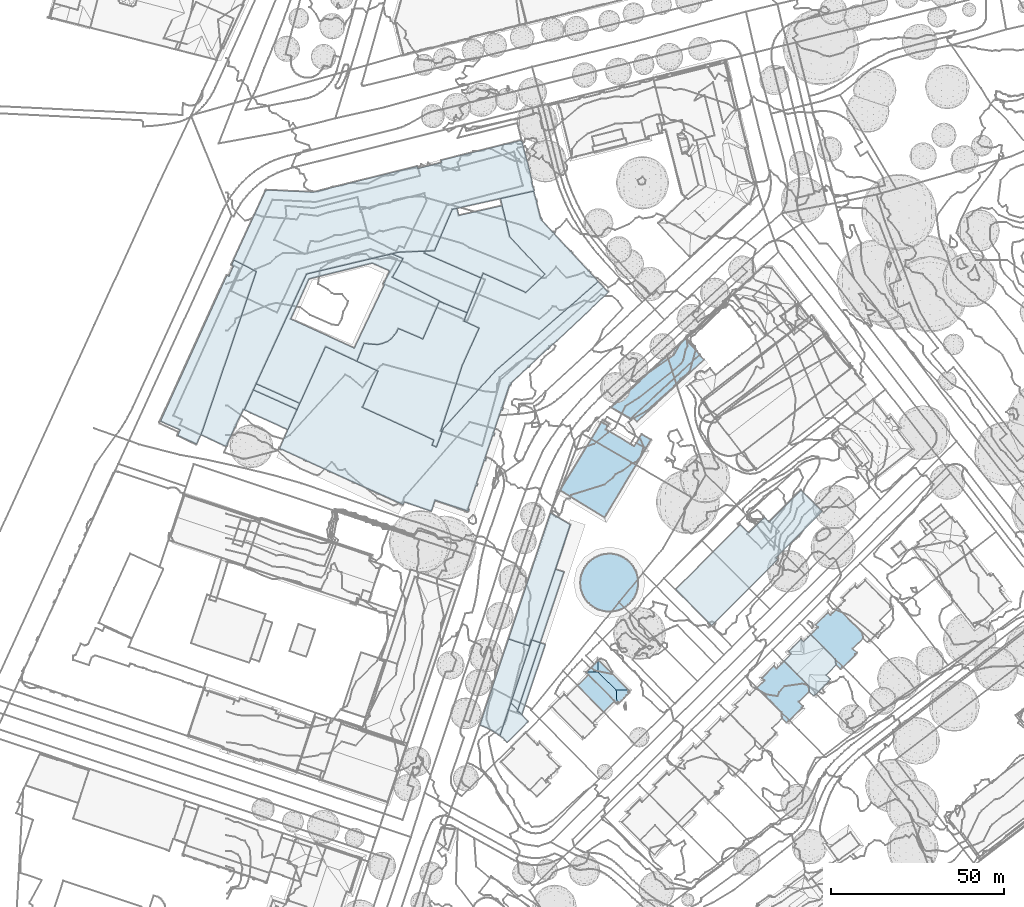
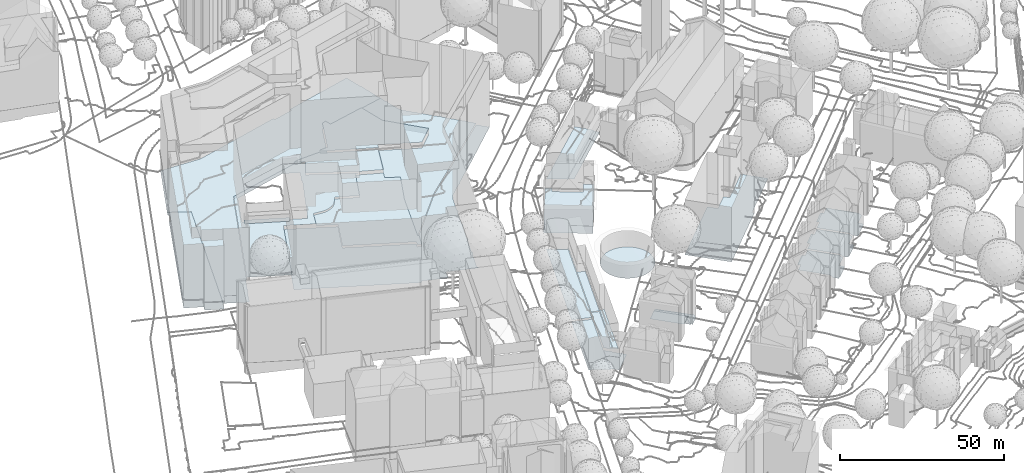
# Not in any storey, part 3 of 494: 10 footings.
"""IFC2X3 model written with IfcOpenShell, lengths in metres."""

from ifc_helpers import new_model, si_unit, frame, origin_with_axes, place, context, subcontext, project, faceted_brep, element, save


model = new_model("IFC2X3")

# Units and contexts
model_context = context("Model", 3, precision=1e-05, world=origin_with_axes())
body_context = subcontext(model_context, "Body", "Model", "MODEL_VIEW")
ifc_project = project(units=[si_unit("AREAUNIT", "SQUARE_METRE"), si_unit("LENGTHUNIT", "METRE")], contexts=[model_context])

# Footings
footing_1_placement = place(None, frame((129.1307320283, 172.8855160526, 527.2133), z_axis=(0.0, 0.0, 1.0), x_axis=(1.0, 0.0, 0.0)))
element("IfcFooting", 1, at=footing_1_placement, Name="Floor 0", PredefinedType="STRIP_FOOTING", context=body_context, shape_type="Brep", body=[
    faceted_brep([(27.1359999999, 19.4952000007, 0.0), (36.2619999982, 28.6290000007, 0.0), (42.3549999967, 22.5430000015, 0.0), (29.0059999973, 9.183600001, 0.0), (29.5369999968, 8.6513999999, 0.0), (29.1419999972, 8.2696000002, 0.0), (21.2709999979, 16.4589999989, 0.0), (26.9079999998, 19.6407000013, 0.0), (25.682, 20.875, 0.0), (26.9489999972, 19.6816999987, 0.0), (10.4670000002, -10.4569999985, 0.0), (29.1589999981, 8.2520000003, 0.0), (0.0, 0.0, 0.0), (18.7049999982, 18.7236999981, 0.0), (21.0179999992, 16.3916999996, 0.0), (21.1789999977, 16.5507999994, 0.0)], [[[0, 1, 2]], [[2, 3, 0]], [[4, 5, 3]], [[0, 6, 7]], [[8, 7, 6]], [[7, 9, 0]], [[0, 3, 6]], [[10, 6, 3]], [[5, 10, 3]], [[10, 5, 11]], [[10, 12, 6]], [[12, 13, 14]], [[14, 6, 12]], [[6, 14, 15]]]),
])
footing_2_placement = place(None, frame((168.236732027, 159.8387160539, 531.4768), z_axis=(0.0, 0.0, 1.0), x_axis=(1.0, 0.0, 0.0)))
element("IfcFooting", 2, at=footing_2_placement, Name="Floor 0", PredefinedType="STRIP_FOOTING", context=body_context, shape_type="Brep", body=[
    faceted_brep([(5.688000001, 5.6512999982, 0.0), (5.7349999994, 5.6981999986, 0.0), (15.1840000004, -1.0703000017, 0.0), (12.1510000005, -4.0655000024, 0.0), (4.9710000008, 6.3729999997, 0.0), (2.1400000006, 2.1268999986, 0.0), (1.4529999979, 2.8192999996, 0.0), (1.3990000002, 2.873999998, 0.0), (2.0170000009, 2.0048999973, 0.0), (3.7619999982, -3.8115000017, 0.0), (0.824000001, 0.8192999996, 0.0), (0.0, 0.0, 0.0), (11.4100000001, -7.4043000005, 0.0), (2.0579999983, 2.0449000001, 0.0), (7.7809999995, 7.7303999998, 0.0), (11.5669999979, 3.8954999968, 0.0), (14.8770000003, 0.5409999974, 0.0), (12.8709999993, -5.7432000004, 0.0), (12.9759999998, -5.8487000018, 0.0), (13.3440000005, -5.2735000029, 0.0), (7.0720000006, -7.1641000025, 0.0), (9.0819999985, -9.505900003, 0.0), (7.3669999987, -8.7871000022, 0.0), (9.4109999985, -9.3877000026, 0.0), (9.1860000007, -9.6123000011, 0.0), (8.574000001, -10.009800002, 0.0)], [[[0, 1, 2]], [[0, 3, 4]], [[5, 6, 4]], [[5, 4, 3]], [[7, 4, 6]], [[8, 9, 10]], [[11, 10, 9]], [[12, 8, 13]], [[5, 12, 13]], [[1, 14, 15]], [[16, 2, 15]], [[0, 2, 3]], [[5, 3, 12]], [[12, 3, 17]], [[17, 18, 12]], [[17, 3, 19]], [[12, 9, 8]], [[20, 9, 12]], [[21, 22, 20]], [[23, 24, 21]], [[21, 20, 23]], [[25, 22, 21]], [[20, 12, 23]], [[15, 2, 1]]]),
])
footing_3_placement = place(None, frame((152.792732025, 144.4969160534, 530.4589), z_axis=(0.0, 0.0, 1.0), x_axis=(1.0, 0.0, 0.0)))
element("IfcFooting", 3, at=footing_3_placement, Name="Floor 0", PredefinedType="STRIP_FOOTING", context=body_context, shape_type="Brep", body=[
    faceted_brep([(6.9670000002, 6.9208999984, 0.0), (7.7600000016, 7.7080000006, 0.0), (11.4990000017, 3.9199000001, 0.0), (5.5789999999, 5.5409999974, 0.0), (11.9930000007, -4.1270000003, 0.0), (2.0360000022, 2.0214999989, 0.0), (4.8600000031, 6.2635999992, 0.0), (1.4649999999, 2.8827999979, 0.0), (1.9040000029, 2.1543000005, 0.0), (1.3220000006, 2.7412, 0.0), (0.0, 0.0, 0.0), (3.7160000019, -3.7655999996, 0.0), (15.0250000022, -1.134800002, 0.0), (14.8100000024, 0.5673999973, 0.0), (13.2320000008, -5.3819000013, 0.0), (12.7850000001, -5.8262000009, 0.0), (7.0250000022, -7.1172000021, 0.0), (12.8900000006, -5.9326000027, 0.0), (12.7840000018, -6.0371000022, 0.0), (9.3020000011, -9.4970999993, 0.0), (8.9810000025, -9.6044999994, 0.0), (7.0860000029, -8.1914000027, 0.0), (7.2149999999, -8.8447000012, 0.0), (8.4680000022, -10.1132999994, 0.0), (9.0870000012, -9.7109999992, 0.0)], [[[0, 1, 2]], [[0, 2, 3]], [[4, 5, 3]], [[6, 5, 7]], [[7, 8, 9]], [[8, 7, 5]], [[10, 5, 11]], [[3, 5, 6]], [[4, 11, 5]], [[2, 4, 3]], [[12, 4, 13]], [[14, 15, 4]], [[16, 11, 4]], [[17, 18, 15]], [[4, 15, 18]], [[18, 16, 4]], [[19, 20, 21]], [[21, 16, 19]], [[21, 20, 22]], [[23, 22, 20]], [[20, 19, 24]], [[18, 19, 16]], [[2, 13, 4]]]),
])
footing_4_placement = place(None, frame((95.7557320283, 201.4705160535, 529.7781), z_axis=(0.0, 0.0, 1.0), x_axis=(1.0, 0.0, 0.0)))
element("IfcFooting", 4, at=footing_4_placement, Name="Floor 0", PredefinedType="STRIP_FOOTING", context=body_context, shape_type="Brep", body=[
    faceted_brep([(14.1559999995, 19.2773999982, 0.0), (13.9899999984, 18.995099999, 0.0), (14.0029999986, 19.3642999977, 0.0), (13.7899999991, 18.6562999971, 0.0), (13.6099999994, 18.3506000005, 0.0), (12.2919999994, 20.3330000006, 0.0), (0.0, 0.0, 0.0), (0.3019999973, 0.4726999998, 0.0), (0.3530000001, -0.2158000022, 0.0), (14.305999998, 16.9726999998, 0.0), (13.186999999, 17.6308999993, 0.0), (11.443, 18.9247999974, 0.0), (13.7209999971, 17.3173999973, 0.0), (23.5359999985, 16.2520000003, 0.0), (23.7709999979, 16.1142999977, 0.0), (22.0429999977, 13.7372999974, 0.0), (24.9539999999, 12.3808999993, 0.0), (24.6569999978, 11.8817999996, 0.0), (26.2989999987, 14.6358000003, 0.0), (13.5079999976, -6.817400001, 0.0), (12.8699999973, -7.8887000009, 0.0), (20.8969999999, 13.0937999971, 0.0), (21.4659999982, 12.7588, 0.0), (24.2789999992, 11.2480999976, 0.0)], [[[0, 1, 2]], [[3, 2, 1]], [[2, 4, 5]], [[4, 2, 3]], [[6, 7, 8]], [[7, 9, 8]], [[4, 10, 11]], [[11, 5, 4]], [[12, 7, 10]], [[10, 7, 11]], [[7, 12, 9]], [[13, 14, 15]], [[14, 16, 15]], [[17, 15, 16]], [[16, 14, 18]], [[19, 20, 8]], [[21, 19, 9]], [[21, 22, 19]], [[8, 9, 19]], [[23, 22, 17]], [[19, 22, 23]], [[22, 15, 17]]]),
])
footing_5_placement = place(None, frame((-19.7342679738, 221.4617160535, 529.9572), z_axis=(0.0, 0.0, 1.0), x_axis=(1.0, 0.0, 0.0)))
element("IfcFooting", 5, at=footing_5_placement, Name="Floor 0", PredefinedType="STRIP_FOOTING", context=body_context, shape_type="Brep", body=[
    faceted_brep([(34.444000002, -7.6933000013, -0.394), (35.0250000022, -8.1308000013, -0.394), (34.5089999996, -7.813500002, -0.394), (34.4499999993, -7.9404000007, -0.394), (34.9979999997, -8.1894000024, -0.394), (41.5960000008, -11.1592000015, -0.394), (36.8099999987, -2.4404000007, -0.394), (58.3509999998, 4.0194999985, -0.394), (42.1409999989, -11.4081999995, -0.394), (48.568, -14.3349000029, -0.394), (62.8740000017, 14.4862999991, -0.394), (47.6970000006, 21.5683999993, -0.394), (49.1140000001, -14.5849000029, -0.394), (79.0159999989, -5.4209000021, -0.394), (78.4660000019, -6.9248000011, -0.394), (70.4990000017, -23.3144000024, -0.394), (70.1220000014, -24.0849000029, -0.394), (71.9290000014, -23.808600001, -0.394), (79.7529999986, -7.4209000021, -0.394), (79.3350000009, -22.817400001, -0.3941), (70.6229999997, -23.3515000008, -0.394), (78.8260000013, -24.4990000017, -0.3941), (78.3060000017, -26.0146000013, -0.3941), (88.8300000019, -25.4189000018, -0.3941), (89.0289999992, -26.0039000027, -0.3941), (91.3289999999, -17.9756000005, -0.3941), (93.5879999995, -11.2509000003, -0.3941), (91.6840000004, -18.0947000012, -0.3941), (91.1390000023, -18.5419999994, -0.3941), (89.1909999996, -25.5224000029, -0.3941), (91.493999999, -18.6611000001, -0.3941), (81.7349999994, -2.0937000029, -0.394), (96.2259999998, -3.3896000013, -0.394), (111.9279999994, 20.9726999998, -0.394), (106.7419999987, 16.1543000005, -0.394), (96.7809999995, 14.5419999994, -0.394), (112.3680000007, 21.3818999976, -0.394), (106.3029999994, 15.7460999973, -0.394), (101.2219999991, 11.0253999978, -0.394), (106.4310000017, 15.6094000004, -0.394), (106.8669999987, 16.0194999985, -0.394), (100.881000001, 10.4784999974, -0.394), (129.126000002, 37.6376999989, -0.394), (114.6420000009, 23.3418000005, -0.394), (126.5549999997, 40.4219000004, -0.394), (129.5850000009, 37.4101999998, -0.394), (129.2580000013, 37.7588, -0.394), (112.4580000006, 21.2851999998, -0.394), (112.0210000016, 20.8730999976, -0.394), (96.0350000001, -3.9590000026, -0.394), (96.5800000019, -3.5088, -0.394), (96.3920000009, -4.0780999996, -0.394), (94.1390000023, -10.7861000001, -0.3941), (93.9479999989, -11.3553999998, -0.3941), (93.7789999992, -10.6816000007, -0.3941), (101.3260000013, 10.8027999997, -0.394), (101.1600000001, 10.3007999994, -0.394), (101.4239999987, 10.8944999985, -0.394), (98.4649999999, 3.2802999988, -0.394), (98.9919999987, 3.7362999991, -0.394), (98.8040000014, 3.1659999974, -0.394), (98.6559999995, 3.8486999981, -0.394), (39.4600000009, 3.4032999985, 16.5544), (27.637000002, 10.8427999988, 16.5544), (40.2659999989, 5.1796999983, 16.5544), (26.8220000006, 9.0702999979, 16.5544), (11.6130000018, -3.942400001, 0.039), (11.6999999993, -3.9150000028, 0.039), (11.6739999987, -3.9697000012, 0.039), (18.9409999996, -7.0908000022, 0.039), (18.8709999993, -7.2451000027, 0.039), (12.1909999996, -2.5859000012, 0.039), (20.4820000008, 45.2929999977, 0.039), (21.1920000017, 46.6327999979, 0.039), (20.563000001, 45.2509999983, 0.039), (30.3630000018, 66.7001999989, 0.0391), (30.4719999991, 66.6503999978, 0.0391), (27.6909999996, 43.2763999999, 0.039), (43.938000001, 66.2685999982, 0.039), (42.2120000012, 42.5849999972, 0.039), (19.2970000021, -6.4814000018, 0.039), (23.9200000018, 3.4208999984, 0.039), (19.074000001, -7.0419999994, 0.039), (19.4780000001, -6.567400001, 0.039), (21.4849999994, -1.7050999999, 0.039), (19.2290000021, -7.1132999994, 0.039), (21.7340000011, -1.1601000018, 0.039), (21.6669999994, -1.7881000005, 0.039), (21.9160000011, -1.2441000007, 0.039), (24.1752000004, 3.3046000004, 0.039), (68.7569999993, 48.8818999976, 0.039), (44.495000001, 66.3213, 0.039), (30.561999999, 66.7206999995, 0.0391), (30.569000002, 66.8905999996, 0.0391), (74.1889999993, 73.7372999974, 0.039), (84.3440000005, 61.2782999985, 0.039), (74.3540000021, 73.0761999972, 0.039), (81.2290000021, 74.7939999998, 0.039), (104.1409999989, 81.2187999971, 0.039), (81.0639999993, 75.4550999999, 0.039), (79.2180000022, 49.3017999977, 0.039), (104.1779999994, 81.0683999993, 0.039), (107.7010000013, 67.6132999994, 0.039), (107.8509999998, 66.7372999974, 0.039), (107.3090000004, 69.1358000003, 0.039), (107.819000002, 67.6425999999, 0.039), (107.8990000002, 66.5478999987, 0.039), (108.0210000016, 66.7851999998, 0.039), (104.3029999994, 80.9824000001, 0.039), (105.932, 75.1415999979, 0.039), (104.4680000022, 81.0233999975, 0.039), (106.0489999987, 75.1708999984, 0.039), (107.4589999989, 69.1728999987, 0.039), (21.1510000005, 44.9199000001, 0.0), (21.1920000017, 46.6327999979, 0.0), (27.6909999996, 43.2763999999, 0.0), (21.0109999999, 44.6132999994, 0.0), (19.925999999, 42.2402999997, 0.0), (20.9550000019, 44.6386999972, 0.0), (20.5399999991, 45.1992000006, 0.0), (19.8650000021, 42.2675999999, 0.0), (19.800999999, 41.9657999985, 0.0), (5.6550000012, -2.4844000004, 0.0), (12.1909999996, -2.5859000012, 0.0), (10.8949999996, -5.6279000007, 0.0), (10.4470000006, -6.5820000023, 0.0), (4.993999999, -4.1132999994, 0.0), (19.1960000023, 42.2412, 0.0), (0.0, 0.0, 0.0), (42.9310000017, 41.1591999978, 1.0229), (41.254999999, 37.4902999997, 1.0229), (42.2120000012, 42.5849999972, 1.0229), (61.2309999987, 45.7196999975, 1.0229), (66.7919999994, 48.4159999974, 1.0229), (24.1920000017, 3.3427999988, 1.0229), (37.6339999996, 29.5654000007, 1.0229), (62.1469999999, 45.307599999, 1.0229), (66.2280000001, 43.4706999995, 1.0229), (70.0720000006, 47.0185999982, 1.0229), (67.0240000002, 41.6210999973, 1.0229), (65.6649999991, 42.2432000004, 1.0229), (124.3559999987, 43.0693999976, 0.1909), (123.8159999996, 43.3896999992, 0.1909), (123.9479999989, 43.5117000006, 0.1909), (119.006000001, 48.5733000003, 0.1909), (118.7250000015, 49.1279000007, 0.1909), (119.1409999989, 48.6972999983, 0.1909), (124.2320000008, 42.936499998, 0.1909), (111.1070000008, 42.5205000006, 0.1909), (113.9160000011, 54.3388999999, 0.191), (113.3709999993, 54.6552999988, 0.191), (113.5040000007, 54.7782999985, 0.191), (126.5549999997, 40.4219000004, 0.1909), (108.8790000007, 63.4765999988, 0.191), (108.5390000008, 64.0155999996, 0.191), (108.7199999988, 64.061499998, 0.191), (98.2540000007, 64.3896999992, 0.191), (107.8990000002, 66.5478999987, 0.191), (108.6920000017, 63.4228999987, 0.191), (110.2879999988, 58.2821999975, 0.191), (110.2960000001, 58.2743999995, 0.191), (110.194000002, 58.0937999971, 0.191), (110.0650000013, 58.7206999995, 0.191), (110.2820000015, 58.3037, 0.191), (109.9059999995, 58.6376999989, 0.191), (105.5940000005, 37.2460999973, 0.1909), (113.7879999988, 54.2060999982, 0.191), (118.5930000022, 49.0058999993, 0.1909), (80.9890000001, -2.8291000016, 0.1909), (81.7349999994, -2.0937000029, 0.1909), (81.4059999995, -2.9794999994, 0.1909), (87.1979999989, 16.0946999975, 0.1909), (96.7809999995, 14.5419999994, 0.1909), (92.0879999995, 26.932599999, 0.1909), (100.9539999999, 53.3720999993, 0.191), (110.3449999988, 58.1855999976, 0.191), (87.6849999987, 28.9853999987, 0.1909), (93.2239999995, 42.7812999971, 0.191), (88.6400000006, 31.3632999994, 0.3799), (87.6849999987, 28.9853999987, 0.3799), (80.6079999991, 34.6552999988, 0.3799), (92.0879999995, 26.932599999, 0.3799), (87.1979999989, 16.0946999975, 0.3799), (75.8379999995, 23.7997999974, 0.3799), (68.2120000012, 25.7734999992, 0.3799), (68.7309999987, 26.8300999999, 0.3799), (67.5040000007, 24.8407999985, 0.3799), (66.6460000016, 23.8222999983, 0.3799), (65.6350000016, 23.0956999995, 0.3799), (62.8740000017, 14.4862999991, 0.3799), (80.9890000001, -2.8291000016, 0.3799), (64.0949999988, 22.4912, 0.3799), (81.4059999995, -2.9794999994, 0.3799), (79.0159999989, -5.4209000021, 0.3799), (79.7529999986, -7.4209000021, 0.3799), (78.4660000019, -6.9248000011, 0.3799), (58.3509999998, 4.0194999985, 0.3799), (62.8170000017, 22.1816999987, 0.3799), (60.2910000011, 22.3642999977, 0.3799), (56.7750000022, 17.3319999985, 0.3799), (58.8210000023, 22.557599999, 0.3799), (68.7569999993, 48.8817999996, 1.6538), (70.0720000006, 47.0185999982, 1.6538), (66.7919999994, 48.4159999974, 1.6538), (76.2760000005, 48.5654000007, 1.6538), (67.0240000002, 41.6210999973, 1.6538), (76.5700000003, 49.1963, 1.6538), (92.6770000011, 41.4179999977, 1.6538), (88.6400000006, 31.3632999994, 1.6538), (82.0540000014, 34.061499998, 1.6538), (47.6970000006, 21.5683999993, 1.0229), (36.8099999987, -2.4404000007, 1.0229), (26.2149999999, 2.3779000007, 1.0229), (56.0040000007, 21.1737999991, 1.0229), (56.7750000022, 17.3319999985, 1.0229), (58.8210000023, 22.557599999, 1.0229), (60.2910000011, 22.3642999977, 1.0229), (62.8170000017, 22.1816999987, 1.0229), (65.6350000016, 23.0956999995, 1.0229), (64.0949999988, 22.4912, 1.0229), (68.7309999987, 26.8300999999, 1.0229), (66.6460000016, 23.8222999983, 1.0229), (67.5040000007, 24.8407999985, 1.0229), (64.6490000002, 39.3603999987, 1.0229), (64.6040000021, 39.5673999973, 1.0229), (64.5340000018, 39.4131000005, 1.0229), (64.7589999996, 40.2655999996, 1.0229), (64.4000000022, 39.7705000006, 1.0229), (64.5540000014, 39.7001999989, 1.0229), (64.6500000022, 40.316399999, 1.0229), (68.2120000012, 25.7734999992, 1.0229), (80.6079999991, 34.6552999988, 1.0229), (75.8379999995, 23.7997999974, 1.0229), (82.0540000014, 34.061499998, 1.0229), (100.9539999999, 53.3720999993, 2.3998), (93.2239999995, 42.7812999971, 2.3997), (86.2050000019, 59.5146999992, 2.3998), (111.1070000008, 42.5205000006, 2.3997), (105.5940000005, 37.2460999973, 2.3997), (98.7540000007, 62.3506000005, 2.3998), (92.6770000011, 41.4179999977, 2.3997), (79.2180000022, 49.3017999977, 2.3998), (76.2760000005, 48.5654000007, 2.3998), (76.5700000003, 49.1963, 2.3998), (84.3440000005, 61.2782999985, 2.3998), (85.7230000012, 61.5859999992, 2.3998)], [[[0, 1, 2]], [[2, 1, 3]], [[4, 3, 1]], [[5, 1, 6]], [[7, 8, 5]], [[1, 0, 6]], [[9, 8, 7]], [[6, 10, 7]], [[10, 6, 11]], [[7, 12, 9]], [[12, 7, 13]], [[13, 14, 12]], [[5, 6, 7]], [[12, 15, 16]], [[17, 18, 19]], [[20, 18, 17]], [[17, 21, 22]], [[19, 23, 24]], [[19, 21, 17]], [[15, 18, 20]], [[25, 19, 26]], [[25, 27, 28]], [[19, 25, 28]], [[18, 26, 19]], [[28, 23, 19]], [[29, 24, 23]], [[27, 30, 28]], [[15, 14, 18]], [[14, 15, 12]], [[18, 31, 32]], [[33, 34, 35]], [[35, 36, 33]], [[34, 37, 35]], [[38, 35, 37]], [[39, 37, 40]], [[34, 40, 37]], [[38, 41, 35]], [[42, 43, 44]], [[45, 42, 46]], [[45, 43, 42]], [[47, 48, 33]], [[33, 36, 47]], [[43, 36, 35]], [[35, 44, 43]], [[49, 50, 51]], [[50, 49, 32]], [[49, 18, 32]], [[26, 52, 53]], [[52, 26, 54]], [[26, 18, 54]], [[49, 54, 18]], [[41, 55, 56]], [[41, 38, 55]], [[57, 55, 38]], [[58, 59, 60]], [[59, 58, 61]], [[58, 31, 61]], [[31, 58, 32]], [[35, 41, 61]], [[35, 61, 31]], [[62, 63, 64]], [[63, 62, 65]], [[66, 67, 68]], [[67, 69, 70]], [[67, 71, 69]], [[71, 67, 66]], [[72, 73, 74]], [[73, 75, 76]], [[73, 76, 77]], [[77, 78, 79]], [[71, 80, 69]], [[72, 75, 73]], [[71, 77, 81]], [[82, 80, 83]], [[82, 69, 80]], [[71, 84, 80]], [[85, 82, 83]], [[86, 87, 84]], [[88, 87, 86]], [[71, 81, 86]], [[89, 81, 79]], [[90, 79, 91]], [[79, 81, 77]], [[86, 84, 71]], [[77, 76, 92]], [[93, 78, 92]], [[78, 77, 92]], [[90, 91, 94]], [[78, 91, 79]], [[95, 90, 96]], [[90, 94, 96]], [[97, 98, 95]], [[95, 96, 97]], [[97, 99, 98]], [[100, 90, 95]], [[95, 98, 101]], [[102, 103, 104]], [[105, 103, 102]], [[95, 103, 106]], [[103, 105, 107]], [[95, 104, 103]], [[108, 109, 101]], [[110, 109, 108]], [[111, 112, 104]], [[109, 111, 104]], [[95, 109, 104]], [[95, 101, 109]], [[113, 114, 115]], [[115, 116, 113]], [[116, 117, 118]], [[117, 116, 115]], [[119, 114, 113]], [[120, 118, 117]], [[121, 117, 115]], [[122, 121, 123]], [[123, 124, 122]], [[125, 122, 124]], [[125, 126, 122]], [[122, 127, 121]], [[127, 122, 128]], [[121, 115, 123]], [[129, 130, 131]], [[129, 131, 132]], [[133, 132, 131]], [[134, 130, 135]], [[131, 130, 134]], [[133, 136, 132]], [[137, 136, 138]], [[133, 138, 136]], [[138, 139, 137]], [[140, 137, 139]], [[141, 142, 143]], [[144, 145, 146]], [[147, 148, 142]], [[149, 150, 151]], [[141, 147, 142]], [[148, 147, 152]], [[153, 154, 155]], [[154, 156, 157]], [[158, 154, 153]], [[159, 160, 161]], [[162, 163, 164]], [[159, 161, 163]], [[158, 156, 154]], [[165, 148, 152]], [[144, 142, 148]], [[148, 166, 167]], [[167, 144, 148]], [[168, 169, 170]], [[169, 171, 172]], [[169, 168, 171]], [[172, 173, 165]], [[165, 152, 172]], [[172, 171, 173]], [[148, 150, 166]], [[164, 163, 161]], [[161, 174, 164]], [[160, 175, 161]], [[174, 161, 150]], [[166, 150, 149]], [[176, 177, 173]], [[156, 164, 174]], [[174, 150, 148]], [[173, 177, 165]], [[156, 158, 164]], [[145, 144, 167]], [[178, 179, 180]], [[181, 182, 179]], [[179, 183, 180]], [[179, 182, 183]], [[183, 184, 185]], [[183, 186, 184]], [[186, 183, 187]], [[188, 187, 189]], [[187, 183, 189]], [[182, 190, 183]], [[190, 189, 183]], [[189, 191, 188]], [[192, 193, 190]], [[190, 193, 189]], [[194, 195, 193]], [[193, 192, 194]], [[193, 196, 189]], [[189, 197, 191]], [[189, 198, 197]], [[199, 200, 198]], [[199, 198, 189]], [[201, 202, 203]], [[202, 204, 205]], [[204, 202, 201]], [[204, 201, 206]], [[207, 208, 209]], [[209, 204, 207]], [[209, 205, 204]], [[210, 211, 212]], [[212, 134, 135]], [[210, 212, 135]], [[135, 213, 210]], [[213, 214, 210]], [[215, 214, 213]], [[216, 139, 217]], [[218, 219, 220]], [[221, 218, 222]], [[219, 217, 220]], [[216, 215, 223]], [[213, 223, 215]], [[224, 223, 225]], [[226, 223, 224]], [[227, 226, 228]], [[228, 226, 224]], [[227, 229, 226]], [[226, 140, 139]], [[220, 230, 222]], [[218, 220, 222]], [[231, 232, 220]], [[231, 220, 139]], [[223, 226, 139]], [[231, 139, 233]], [[220, 217, 139]], [[139, 216, 223]], [[234, 235, 236]], [[235, 237, 238]], [[237, 235, 234]], [[239, 234, 236]], [[240, 241, 235]], [[242, 243, 241]], [[241, 240, 242]], [[244, 245, 236]], [[236, 241, 244]], [[236, 235, 241]]]),
])
footing_6_placement = place(None, frame((101.6207320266, 174.7557160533, 529.8231), z_axis=(0.0, 0.0, 1.0), x_axis=(1.0, 0.0, 0.0)))
element("IfcFooting", 6, at=footing_6_placement, Name="Floor 0", PredefinedType="STRIP_FOOTING", context=body_context, shape_type="Brep", body=[
    faceted_brep([(6.9660000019, -8.2206999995, -0.0001), (5.1420000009, -7.683600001, -0.0001), (8.4250000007, -8.3399000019, -0.0001), (7.6920000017, -8.3125, -0.0001), (11.6020000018, -7.6845999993, -0.0001), (11.2859999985, -7.8183999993, -0.0001), (10.5899999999, -8.0419999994, -0.0001), (9.8770000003, -8.2041000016, -0.0001), (9.1530000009, -8.3037, -0.0001), (11.9600000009, -7.5342000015, -0.0001), (12.6059999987, -7.192400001, -0.0001), (6.2509999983, -8.067400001, -0.0001), (1.5370000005, -4.8027999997, -0.0001), (0.5179999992, -2.8662, 0.0), (2.4829999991, -5.9189999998, -0.0001), (1.9849999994, -5.3808999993, -0.0001), (3.6070000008, -6.8516000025, -0.0001), (4.8759999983, -7.5752000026, -0.0001), (4.2250000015, -7.2412, -0.0001), (3.0240000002, -6.4101999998, -0.0001), (16.2630000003, -2.7774000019, -0.0001), (0.6750000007, 3.311499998, 0.0), (5.5529999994, -7.8506000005, -0.0001), (13.2199999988, -6.7959000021, -0.0001), (13.7980000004, -6.3467000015, -0.0001), (14.3339999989, -5.8496000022, -0.0001), (15.6550000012, -4.1044999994, -0.0001), (15.2659999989, -4.7237000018, -0.0001), (14.824000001, -5.3067000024, -0.0001), (15.9880000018, -3.4550999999, -0.0001), (16.6319999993, -1.3643000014, -0.0001), (16.4789999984, -2.0782000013, -0.0001), (16.7230000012, -0.6377000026, -0.0001), (16.75, 0.0887999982, -0.0001), (16.0769999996, 3.3085999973, -0.0001), (16.4519999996, 2.2547999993, -0.0001), (16.6130000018, 1.5449000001, -0.0001), (16.7129999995, 0.8231999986, -0.0001), (16.2280000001, 2.9492000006, -0.0001), (5.4890000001, 7.8993999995, 0.0), (15.6059999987, 4.2655999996, -0.0001), (15.9459999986, 3.6210999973, -0.0001), (1.1420000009, -4.1875, -0.0001), (0.1330000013, -1.4550999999, 0.0), (0.2950000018, -2.1689999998, 0.0), (0.0, 0.0, 0.0), (0.1220000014, 1.4569999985, 0.0), (0.0289999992, 0.7313999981, 0.0), (0.0350000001, -0.7314999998, 0.0), (0.2769999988, 2.1717999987, 0.0), (1.4979999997, 4.816399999, 0.0), (1.1070000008, 4.1972000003, 0.0), (0.7719999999, 3.5467999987, 0.0), (2.4349999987, 5.9404000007, 0.0), (3.5500000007, 6.8817999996, 0.0), (2.9719999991, 6.4344999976, 0.0), (1.9409999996, 5.3983999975, 0.0), (0.493999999, 2.870099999, 0.0), (4.1660000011, 7.2773000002, 0.0), (13.1499999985, 6.9199000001, -0.0001), (11.2129999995, 7.9188999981, 0.0), (12.5340000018, 7.3085999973, 0.0), (11.8859999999, 7.6424999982, 0.0), (13.7300000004, 6.4794999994, -0.0001), (14.7650000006, 5.4540999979, -0.0001), (15.2109999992, 4.8779000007, -0.0001), (14.2670000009, 5.9921999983, -0.0001), (6.8999999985, 8.2811999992, 0.0), (6.1860000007, 8.1210999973, 0.0), (8.3520000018, 8.4131000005, 0.0), (7.625, 8.378899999, 0.0), (9.8040000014, 8.2909999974, 0.0), (10.5159999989, 8.1356999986, 0.0), (9.0810000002, 8.3827999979, 0.0), (4.8139999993, 7.6171999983, 0.0), (0.800999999, -3.5401000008, -0.0001)], [[[0, 1, 2]], [[2, 3, 0]], [[4, 2, 1]], [[5, 6, 4]], [[2, 4, 7]], [[2, 7, 8]], [[4, 6, 7]], [[9, 4, 10]], [[1, 0, 11]], [[12, 13, 14]], [[14, 15, 12]], [[1, 13, 4]], [[16, 14, 1]], [[1, 17, 18]], [[14, 16, 19]], [[1, 18, 16]], [[20, 4, 21]], [[22, 1, 11]], [[14, 13, 1]], [[23, 4, 24]], [[24, 4, 25]], [[4, 23, 10]], [[20, 26, 27]], [[27, 28, 20]], [[29, 26, 20]], [[25, 4, 28]], [[20, 28, 4]], [[20, 30, 31]], [[32, 30, 33]], [[30, 20, 33]], [[34, 35, 36]], [[37, 33, 36]], [[34, 38, 35]], [[34, 36, 33]], [[33, 20, 34]], [[34, 20, 39]], [[40, 41, 34]], [[13, 12, 42]], [[21, 4, 13]], [[43, 13, 44]], [[13, 43, 45]], [[45, 21, 13]], [[46, 21, 45]], [[45, 47, 46]], [[43, 48, 45]], [[49, 21, 46]], [[39, 20, 21]], [[50, 21, 51]], [[21, 52, 51]], [[21, 50, 53]], [[53, 39, 21]], [[54, 39, 53]], [[53, 55, 54]], [[50, 56, 53]], [[49, 57, 21]], [[58, 39, 54]], [[59, 60, 61]], [[60, 62, 61]], [[59, 63, 60]], [[64, 65, 34]], [[34, 65, 40]], [[34, 66, 64]], [[63, 66, 60]], [[66, 34, 60]], [[67, 39, 68]], [[39, 69, 60]], [[67, 70, 39]], [[71, 72, 60]], [[71, 60, 73]], [[69, 73, 60]], [[70, 69, 39]], [[60, 34, 39]], [[74, 39, 58]], [[42, 75, 13]]]),
])
footing_7_placement = place(None, frame((100.8207320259, 145.1316160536, 530.024), z_axis=(0.0, 0.0, 1.0), x_axis=(1.0, 0.0, 0.0)))
element("IfcFooting", 7, at=footing_7_placement, Name="Floor 0", PredefinedType="STRIP_FOOTING", context=body_context, shape_type="Brep", body=[
    faceted_brep([(3.1640000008, 3.1338, 0.0), (8.800999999, -6.4775000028, 0.0), (0.0, 0.0, 0.0), (3.8530000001, -3.9218000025, 0.0), (10.4810000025, -4.258700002, 0.0), (10.7360000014, -4.5604999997, 0.0), (11.3000000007, -5.0868999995, 0.0), (7.5650000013, -7.701100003, 0.0), (11.2789999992, -5.1103000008, 0.0), (11.2809999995, -5.1084000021, 0.0), (5.8210000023, 7.0322999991, -2.6017), (5.887000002, 3.8427999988, -1.1389), (2.7329999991, 3.9736999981, -2.6377), (11.1380000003, -1.326100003, -1.1389), (14.7740000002, -1.3427000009, -2.8057), (6.1550000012, 7.3632999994, -2.9107), (2.6960000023, 3.6064999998, -2.8407), (2.5309999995, 3.7744999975, -2.8387), (10.4810000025, -4.258700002, -2.9467), (11.2809999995, -5.1084000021, -2.9787), (11.2880000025, -5.1005000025, -2.9707), (11.3680000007, -5.201100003, -2.9817), (11.3000000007, -5.0868999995, -2.9587), (11.2950000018, -5.0927000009, -2.9637), (15.0160000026, -1.5877999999, -3.0267), (14.625, -1.9746000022, -3.0217), (14.2270000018, -2.8916000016, -3.2517), (14.7589999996, -2.1103000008, -3.1427), (13.4570000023, -3.6796000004, -3.2547), (15.0, -2.1015000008, -3.2497), (12.6860000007, -4.4687000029, -3.2567), (11.745000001, -4.8271000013, -2.9857), (11.6590000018, -4.9121000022, -2.9847), (11.8720000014, -4.9550000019, -3.1027), (11.5329999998, -5.0390000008, -2.9837), (11.3920000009, -5.1796000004, -2.9837), (11.9090000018, -5.2627000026, -3.2587), (11.8420000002, -5.196200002, -3.1977)], [[[0, 1, 2]], [[3, 2, 1]], [[0, 4, 1]], [[5, 4, 6]], [[7, 3, 1]], [[5, 1, 4]], [[8, 5, 9]], [[9, 5, 6]], [[10, 11, 12]], [[13, 10, 14]], [[13, 11, 10]], [[10, 15, 14]], [[12, 16, 17]], [[12, 11, 18]], [[13, 18, 11]], [[18, 16, 12]], [[19, 20, 21]], [[22, 21, 23]], [[23, 21, 20]], [[21, 22, 13]], [[18, 13, 22]], [[24, 25, 14]], [[25, 13, 14]], [[26, 25, 27]], [[25, 28, 13]], [[26, 27, 29]], [[26, 28, 25]], [[28, 30, 31]], [[28, 31, 13]], [[31, 32, 13]], [[33, 31, 30]], [[21, 34, 35]], [[32, 34, 13]], [[34, 21, 13]], [[33, 36, 37]], [[36, 33, 30]]]),
])
footing_8_placement = place(None, frame((72.548732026, 133.6649160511, 527.8002), z_axis=(0.0, 0.0, 1.0), x_axis=(1.0, 0.0, 0.0)))
element("IfcFooting", 8, at=footing_8_placement, Name="Floor 0", PredefinedType="STRIP_FOOTING", context=body_context, shape_type="Brep", body=[
    faceted_brep([(14.8660000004, 24.6484000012, 0.0), (15.0529999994, 24.5868999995, 0.0), (14.2789999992, 22.8935000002, 0.0), (5.8420000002, -3.0156999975, 0.0), (0.0, 0.0, 0.0), (8.3060000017, 24.8905999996, 0.0), (0.3110000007, -0.1298999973, 0.0), (0.1180000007, -0.0615999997, 0.0), (2.004999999, -0.807699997, 0.0), (4.6420000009, -2.2696000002, 0.0), (3.8350000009, -1.7656999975, 0.0), (5.4290000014, -2.807699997, 0.0), (5.5399999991, -2.8594000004, 0.0), (0.9810000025, -0.3720999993, 0.0), (1.4600000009, -0.5751999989, 0.0), (0.8139999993, -0.3125, 0.0), (3.0020000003, -1.2978999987, 0.0), (5.8420000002, -3.0156999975, 0.279), (5.8310000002, -3.1142999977, 0.279), (5.6130000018, -2.8974999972, 0.279), (6.5650000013, -3.7099999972, 0.279), (7.2679999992, -4.3409000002, 0.279), (10.8630000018, 3.946200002, 0.279), (14.0480000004, 1.0478000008, 0.279), (7.9409999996, -5.0048999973, 0.279), (8.9759999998, 6.3779000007, 0.279), (11.001000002, 4.3583000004, 0.279), (12.0700000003, 3.076100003, 0.279), (11.3200000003, 3.7939000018, 0.279), (14.2789999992, 22.8935000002, 0.738), (24.131000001, 59.125, 0.738), (14.8660000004, 24.6484000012, 0.738), (8.3060000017, 24.8905999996, 0.738), (20.7420000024, 61.1240000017, 0.738), (22.5040000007, 60.0859000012, 0.738), (26.175999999, 57.9189000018, 0.738), (15.0529999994, 24.5868999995, 0.738), (20.4539999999, 61.2919000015, 0.738), (18.9510000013, 23.2840999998, 1.7849), (11.3200000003, 3.7939000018, 1.7848), (17.493999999, 23.7705000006, 1.7849), (12.069000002, 3.0751000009, 1.7848), (10.8630000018, 3.946200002, 1.7849), (12.1469999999, 2.9970000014, 1.7848), (12.1779999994, 2.9873000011, 1.7848), (17.493999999, 23.7705000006, 1.4999), (21.938000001, 45.0312000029, 1.4999), (24.3370000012, 44.2285000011, 1.4999), (15.0529999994, 24.5868999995, 1.4999), (26.175999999, 57.9189000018, 1.4999), (26.2369999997, 57.8828000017, 1.4999), (17.493999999, 23.7705000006, 1.2579), (8.9759999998, 6.3779000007, 1.2579), (15.0529999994, 24.5868999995, 1.2579), (11.001000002, 4.3583000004, 1.2579)], [[[0, 1, 2]], [[3, 2, 1]], [[4, 5, 6]], [[4, 6, 7]], [[5, 2, 8]], [[9, 10, 2]], [[11, 2, 12]], [[9, 2, 11]], [[3, 12, 2]], [[13, 5, 14]], [[5, 15, 6]], [[5, 13, 15]], [[2, 10, 16]], [[8, 2, 16]], [[5, 8, 14]], [[17, 18, 19]], [[17, 20, 18]], [[21, 20, 22]], [[21, 23, 24]], [[17, 22, 20]], [[25, 26, 22]], [[17, 25, 22]], [[23, 21, 27]], [[22, 28, 27]], [[21, 22, 27]], [[29, 30, 31]], [[30, 29, 32]], [[33, 34, 32]], [[32, 34, 30]], [[35, 36, 31]], [[31, 30, 35]], [[32, 37, 33]], [[38, 39, 40]], [[38, 41, 39]], [[39, 42, 40]], [[41, 38, 43]], [[38, 44, 43]], [[45, 46, 47]], [[45, 48, 46]], [[49, 50, 46]], [[46, 48, 49]], [[51, 52, 53]], [[52, 51, 54]]]),
])
footing_9_placement = place(None, frame((110.5127320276, 225.4217160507, 530.0601), z_axis=(0.0, 0.0, 1.0), x_axis=(1.0, 0.0, 0.0)))
element("IfcFooting", 9, at=footing_9_placement, Name="Floor 0", PredefinedType="STRIP_FOOTING", context=body_context, shape_type="Brep", body=[
    faceted_brep([(6.3570000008, -2.7588, -0.216), (5.6799999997, -3.3818999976, -0.216), (5.5109999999, -3.2821999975, -0.216), (26.8609999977, 13.8369000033, -0.216), (7.5089999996, -4.0088, -0.216), (25.6429999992, 15.2842000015, -0.216), (25.7089999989, 15.0879000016, -0.216), (25.7599999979, 15.1347000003, -0.216), (0.0, 0.0, 0.0), (21.5419999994, 19.8662, 0.0), (0.4079999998, -0.2333999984, 0.0), (1.1050000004, -0.6327999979, 0.0), (22.9140000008, 18.3789000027, 0.0), (2.7280000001, -1.561499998, 0.0), (21.8460000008, 19.5371000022, 0.0), (4.4129999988, -2.5282999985, 0.0), (3.612999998, -2.0702999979, 0.0), (24.2339999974, 16.9472000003, 0.0), (25.6429999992, 15.2842000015, 0.0), (5.5940000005, -3.2050999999, 0.0), (5.1099999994, -2.9277999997, 0.0), (24.8350000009, 16.3047000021, 0.0), (22.318, 19.0254000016, 0.0), (25.2689999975, 15.7568000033, 0.0)], [[[0, 1, 2]], [[0, 3, 4]], [[2, 5, 0]], [[0, 6, 3]], [[7, 6, 5]], [[5, 6, 0]], [[8, 9, 10]], [[11, 12, 13]], [[11, 10, 14]], [[15, 16, 17]], [[18, 19, 20]], [[20, 15, 21]], [[16, 13, 17]], [[11, 22, 12]], [[11, 14, 22]], [[17, 13, 12]], [[21, 23, 20]], [[18, 20, 23]], [[17, 21, 15]], [[10, 9, 14]]]),
])
footing_10_placement = place(None, frame((160.5527320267, 152.2049160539, 530.9679), z_axis=(0.0, 0.0, 1.0), x_axis=(1.0, 0.0, 0.0)))
element("IfcFooting", 10, at=footing_10_placement, Name="Floor 0", PredefinedType="STRIP_FOOTING", context=body_context, shape_type="Brep", body=[
    faceted_brep([(5.0379999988, 6.1162, 0.0), (5.5929999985, 5.556599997, 0.0), (2.8819999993, 4.2949000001, 0.0), (4.8770000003, 6.2773000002, 0.0), (11.4459999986, 3.8222000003, 0.0), (6.8669999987, 6.8231999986, 0.0), (7.6840000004, 7.6338, 0.0), (2.0450000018, 2.0331999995, 0.0), (12.1099999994, -4.058600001, -0.0001), (1.6429999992, 2.4375, 0.0), (1.3940000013, 2.6875, 0.0), (1.3299999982, 2.7528999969, 0.0), (3.7390000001, -3.7881000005, 0.0), (0.0, 0.0, 0.0), (15.050999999, -1.1533000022, -0.0001), (14.756000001, 0.4696999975, -0.0001), (13.3260000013, -5.2901000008, -0.0001), (12.7960000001, -5.8164000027, -0.0001), (11.5379999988, -7.2754000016, -0.0001), (12.9010000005, -5.9219000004, -0.0001), (7.0500000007, -7.1406000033, -0.0001), (9.006000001, -9.5800999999, -0.0001), (8.493999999, -10.0879000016, -0.0001), (7.2650000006, -8.8428000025, -0.0001), (9.1739999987, -9.6240000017, -0.0001), (9.1110000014, -9.6865000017, -0.0001)], [[[0, 1, 2]], [[3, 0, 2]], [[4, 1, 5]], [[5, 6, 4]], [[7, 1, 8]], [[2, 9, 10]], [[11, 2, 10]], [[9, 2, 7]], [[12, 13, 7]], [[1, 7, 2]], [[4, 8, 1]], [[14, 8, 15]], [[16, 17, 8]], [[12, 7, 8]], [[18, 17, 19]], [[8, 17, 18]], [[18, 20, 8]], [[8, 20, 12]], [[21, 22, 23]], [[23, 20, 21]], [[18, 21, 20]], [[21, 18, 24]], [[24, 25, 21]], [[4, 15, 8]]]),
])

save(model, "model.ifc")
